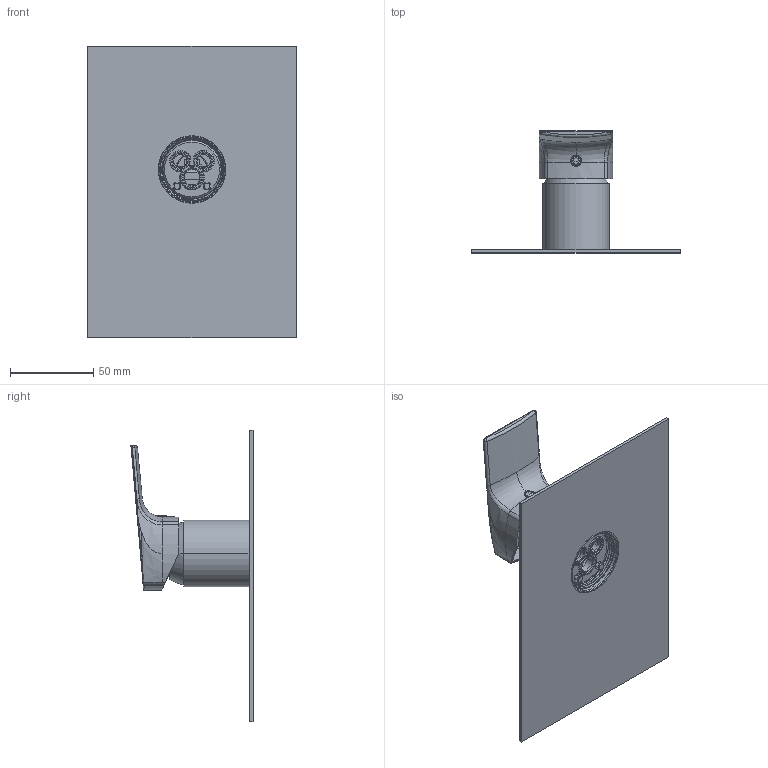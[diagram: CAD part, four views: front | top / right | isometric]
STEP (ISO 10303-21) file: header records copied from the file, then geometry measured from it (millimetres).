
FILE_DESCRIPTION((''),'2;1');
FILE_NAME('3D_SW0001','2024-10-08T09:29:10',('volponeff'),(''),'CREO PARAMETRIC BY PTC INC, 2022014','CREO PARAMETRIC BY PTC INC, 2022014','');
FILE_SCHEMA(('CONFIG_CONTROL_DESIGN'));
Products named in the file (1): 3D_SW0001
Bounding box: 125 x 73.24 x 175 mm (x, y, z)
Volume: 87024.2 mm3; surface area: 86411.4 mm2
Topology: 3 solids, 4 shells, 789 faces, 2342 edges, 1553 vertices
Faces by surface type: cylinder 296, plane 260, torus 86, bspline 86, cone 51, sphere 10
Entity records: 54776 total; most frequent: CARTESIAN_POINT 34086, ORIENTED_EDGE 4676, DIRECTION 4027, EDGE_CURVE 2338, VERTEX_POINT 1553, AXIS2_PLACEMENT_3D 1521, VECTOR 985, LINE 985
